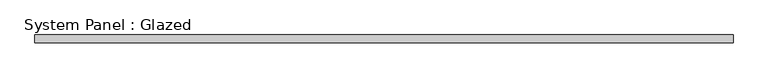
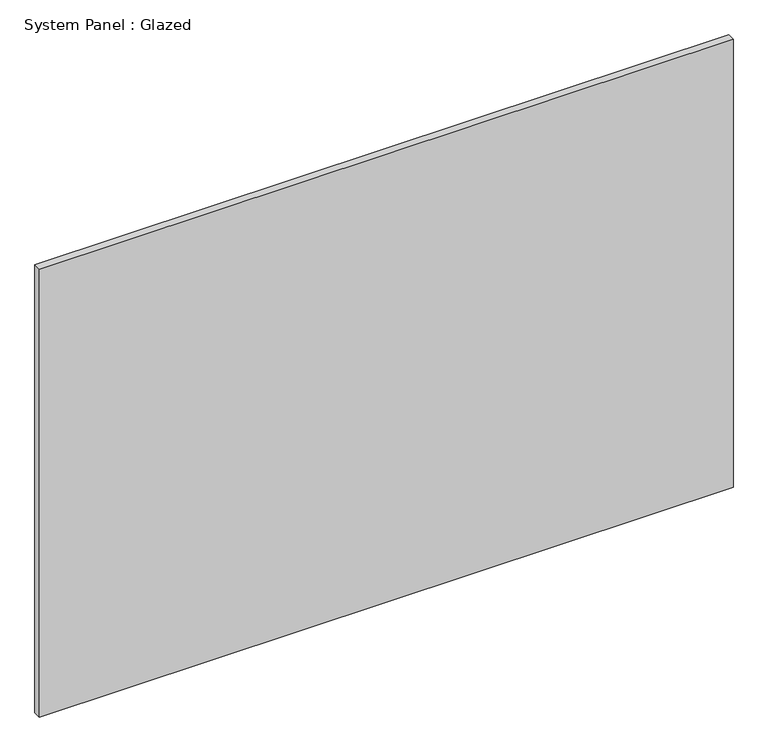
"""IFC4 building model written with IfcOpenShell, lengths in millimetres: plate geometry, System Panel : Glazed."""

from ifc_helpers import new_model, si_unit, origin, origin_with_axes, place, context, project, spatial, polyline, outline, extrude, source, transform, mapped, element, save


def system_panel_glazed_c423431e(model_context):
    return source(origin(), model_context, "Body", "SweptSolid", [
        extrude(outline(polyline([(1153.3070958, 19.05), (-1153.3070958, 19.05), (-1153.3070958, 44.45), (1153.3070958, 44.45), (1153.3070958, 19.05)])), origin_with_axes(), (0.0, 0.0, 1.0), 1574.8),
    ])


if __name__ == "__main__":
    model = new_model("IFC4")
    model_context = context("Model", 3, world=origin())
    ifc_project = project(units=[si_unit("LENGTHUNIT", "METRE", prefix="MILLI")], contexts=[model_context])
    site = spatial("IfcSite", under=ifc_project)
    building = spatial("IfcBuilding", under=site)
    placement = place(None, origin())
    system_panel_glazed_shape = system_panel_glazed_c423431e(model_context)
    element("IfcPlate", 1, ObjectType="System Panel : Glazed", at=placement, inside=building, context=model_context, shape_type="MappedRepresentation", body=[
        mapped(system_panel_glazed_shape, transform((0.0, 0.0, 0.0), x_axis=(1.0, 0.0, 0.0), y_axis=(0.0, 1.0, 0.0), z_axis=(0.0, 0.0, 1.0))),
    ])
    save(model, "model.ifc")
